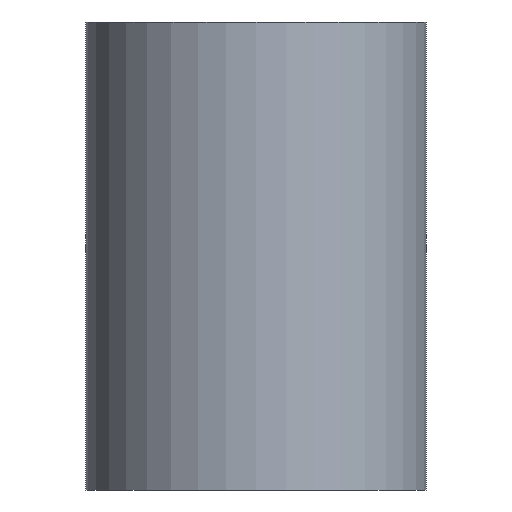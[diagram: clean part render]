
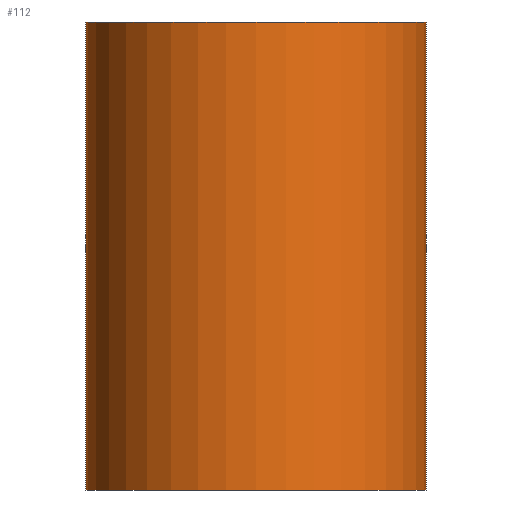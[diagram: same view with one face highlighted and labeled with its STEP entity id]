
A CAD part, front view. The second image highlights one B-rep face of the part: STEP entity #112.
In plain terms, the highlighted cylindrical face has radius 8 mm (diameter 16 mm), a partial arc.
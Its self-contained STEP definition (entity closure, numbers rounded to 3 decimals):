
#112=ADVANCED_FACE('',(#125),#119,.T.);
#119=CYLINDRICAL_SURFACE('',#254,8.);
#125=FACE_OUTER_BOUND('',#135,.T.);
#135=EDGE_LOOP('',(#177,#178,#179,#180));
#149=CIRCLE('',#250,8.);
#151=CIRCLE('',#253,8.);
#177=ORIENTED_EDGE('',*,*,#221,.T.);
#178=ORIENTED_EDGE('',*,*,#222,.F.);
#179=ORIENTED_EDGE('',*,*,#223,.F.);
#180=ORIENTED_EDGE('',*,*,#219,.T.);
#203=VERTEX_POINT('',#344);
#204=VERTEX_POINT('',#345);
#205=VERTEX_POINT('',#349);
#206=VERTEX_POINT('',#351);
#219=EDGE_CURVE('',#203,#204,#149,.T.);
#221=EDGE_CURVE('',#204,#205,#231,.T.);
#222=EDGE_CURVE('',#206,#205,#151,.T.);
#223=EDGE_CURVE('',#203,#206,#232,.T.);
#231=LINE('',#348,#235);
#232=LINE('',#352,#236);
#235=VECTOR('',#298,1.);
#236=VECTOR('',#301,1.);
#250=AXIS2_PLACEMENT_3D('',#343,#292,#293);
#253=AXIS2_PLACEMENT_3D('',#350,#299,#300);
#254=AXIS2_PLACEMENT_3D('',#353,#302,#303);
#292=DIRECTION('',(0.,0.,1.));
#293=DIRECTION('',(0.,1.,0.));
#298=DIRECTION('',(0.,0.,1.));
#299=DIRECTION('',(0.,0.,1.));
#300=DIRECTION('',(0.,1.,0.));
#301=DIRECTION('',(0.,0.,1.));
#302=DIRECTION('',(0.,0.,1.));
#303=DIRECTION('',(0.,-1.,0.));
#343=CARTESIAN_POINT('',(0.,0.,-22.));
#344=CARTESIAN_POINT('',(-8.,0.,-22.));
#345=CARTESIAN_POINT('',(8.,0.,-22.));
#348=CARTESIAN_POINT('',(8.,0.,0.));
#349=CARTESIAN_POINT('',(8.,0.,0.));
#350=CARTESIAN_POINT('',(0.,0.,0.));
#351=CARTESIAN_POINT('',(-8.,0.,0.));
#352=CARTESIAN_POINT('',(-8.,0.,0.));
#353=CARTESIAN_POINT('',(0.,0.,-22.));
